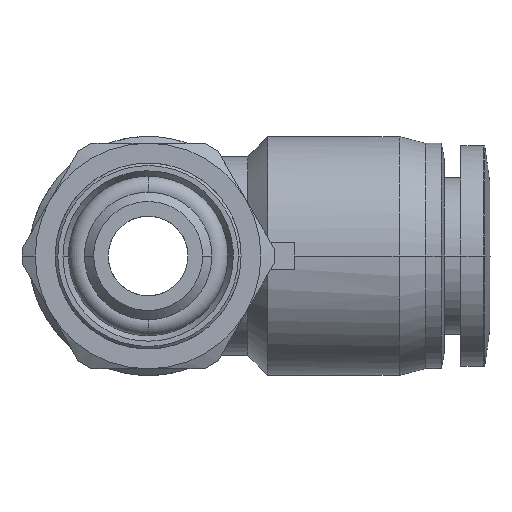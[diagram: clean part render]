
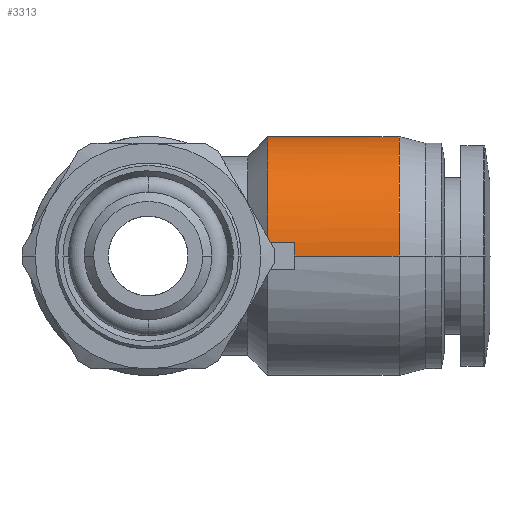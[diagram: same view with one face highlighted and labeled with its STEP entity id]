
A CAD part, front view. The second image highlights one B-rep face of the part: STEP entity #3313.
In plain terms, the highlighted cylindrical face has radius 9 mm (diameter 18 mm), a partial arc.
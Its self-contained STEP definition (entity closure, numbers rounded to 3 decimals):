
#27 = VERTEX_POINT ( 'NONE', #1325 ) ;
#58 = VECTOR ( 'NONE', #4463, 1000. ) ;
#81 = LINE ( 'NONE', #1532, #58 ) ;
#98 = CARTESIAN_POINT ( 'NONE',  ( 9., 25.5, 3.153 ) ) ;
#178 = VERTEX_POINT ( 'NONE', #5853 ) ;
#193 = CARTESIAN_POINT ( 'NONE',  ( 11.056, 8.056, 1. ) ) ;
#348 = CARTESIAN_POINT ( 'NONE',  ( 11.5, 26., 0. ) ) ;
#369 = ORIENTED_EDGE ( 'NONE', *, *, #3985, .F. ) ;
#391 = CARTESIAN_POINT ( 'NONE',  ( 18.9, 24.197, 5.531 ) ) ;
#462 = LINE ( 'NONE', #5751, #4586 ) ;
#482 = CARTESIAN_POINT ( 'NONE',  ( 11., 8., 0.333 ) ) ;
#559 = CARTESIAN_POINT ( 'NONE',  ( 9., 12.766, 8.017 ) ) ;
#572 = EDGE_CURVE ( 'NONE', #178, #27, #3756, .T. ) ;
#614 = ORIENTED_EDGE ( 'NONE', *, *, #2746, .F. ) ;
#642 = CYLINDRICAL_SURFACE ( 'NONE', #5866, 9. ) ;
#672 = VERTEX_POINT ( 'NONE', #3344 ) ;
#688 = CARTESIAN_POINT ( 'NONE',  ( 9., 25.944, 1. ) ) ;
#745 = CARTESIAN_POINT ( 'NONE',  ( 11.5, 26., 0.333 ) ) ;
#801 = EDGE_CURVE ( 'NONE', #27, #2409, #81, .T. ) ;
#891 = CARTESIAN_POINT ( 'NONE',  ( 18.9, 25.766, 2.356 ) ) ;
#945 = CARTESIAN_POINT ( 'NONE',  ( 18.9, 9.136, 4.533 ) ) ;
#1007 = B_SPLINE_CURVE_WITH_KNOTS ( 'NONE', 3,
 ( #688, #4326, #98, #2990, #1520, #3862, #3392, #2024, #2930, #4823, #4355, #559, #1991, #3895, #3419, #5324, #5820, #4855 ),
 .UNSPECIFIED., .F., .F.,
 ( 4, 2, 2, 2, 2, 2, 2, 2, 4 ),
 ( 0., 0.125, 0.25, 0.375, 0.5, 0.625, 0.75, 0.875, 1. ),
 .UNSPECIFIED. ) ;
#1325 = CARTESIAN_POINT ( 'NONE',  ( 11.5, 26., 0. ) ) ;
#1380 = CARTESIAN_POINT ( 'NONE',  ( 10.37, 8.056, 1. ) ) ;
#1476 = CARTESIAN_POINT ( 'NONE',  ( 10.704, 25.944, 1. ) ) ;
#1520 = CARTESIAN_POINT ( 'NONE',  ( 9., 23.816, 5.978 ) ) ;
#1532 = CARTESIAN_POINT ( 'NONE',  ( 13.95, 26., 0. ) ) ;
#1641 = DIRECTION ( 'NONE',  ( 1., 0., 0. ) ) ;
#1792 = CARTESIAN_POINT ( 'NONE',  ( 18.9, 8., 0. ) ) ;
#1819 = CARTESIAN_POINT ( 'NONE',  ( 18.9, 11.469, 7.197 ) ) ;
#1839 = ORIENTED_EDGE ( 'NONE', *, *, #3786, .F. ) ;
#1849 = CARTESIAN_POINT ( 'NONE',  ( 18.9, 8., 1.178 ) ) ;
#1895 = DIRECTION ( 'NONE',  ( 1., 0., 0. ) ) ;
#1991 = CARTESIAN_POINT ( 'NONE',  ( 9., 11.816, 7.438 ) ) ;
#2024 = CARTESIAN_POINT ( 'NONE',  ( 9., 19.189, 8.798 ) ) ;
#2187 = DIRECTION ( 'NONE',  ( 0., 1., 0. ) ) ;
#2211 = ORIENTED_EDGE ( 'NONE', *, *, #3610, .F. ) ;
#2226 = ORIENTED_EDGE ( 'NONE', *, *, #3593, .T. ) ;
#2267 = CARTESIAN_POINT ( 'NONE',  ( 18.9, 19.356, 8.766 ) ) ;
#2275 = ORIENTED_EDGE ( 'NONE', *, *, #572, .F. ) ;
#2296 = CARTESIAN_POINT ( 'NONE',  ( 18.9, 18.178, 9. ) ) ;
#2327 = CARTESIAN_POINT ( 'NONE',  ( 9.685, 8.056, 1. ) ) ;
#2409 = VERTEX_POINT ( 'NONE', #3943 ) ;
#2418 = B_SPLINE_CURVE_WITH_KNOTS ( 'NONE', 3,
 ( #5658, #1380, #2327, #3306 ),
 .UNSPECIFIED., .F., .F.,
 ( 4, 4 ),
 ( 0., 1. ),
 .UNSPECIFIED. ) ;
#2461 = B_SPLINE_CURVE_WITH_KNOTS ( 'NONE', 3,
 ( #2842, #5626, #891, #3277, #391, #2762, #2873, #2267, #2296, #6087, #4157, #6057, #1819, #5652, #945, #3249, #1849, #1792 ),
 .UNSPECIFIED., .F., .F.,
 ( 4, 2, 2, 2, 2, 2, 2, 2, 4 ),
 ( 0., 0.063, 0.125, 0.188, 0.25, 0.313, 0.375, 0.438, 0.5 ),
 .UNSPECIFIED. ) ;
#2565 = ORIENTED_EDGE ( 'NONE', *, *, #4219, .T. ) ;
#2746 = EDGE_CURVE ( 'NONE', #2409, #4301, #2461, .T. ) ;
#2762 = CARTESIAN_POINT ( 'NONE',  ( 18.9, 22.531, 7.197 ) ) ;
#2842 = CARTESIAN_POINT ( 'NONE',  ( 18.9, 26., 0. ) ) ;
#2853 = CARTESIAN_POINT ( 'NONE',  ( 11.056, 8.056, 1. ) ) ;
#2873 = CARTESIAN_POINT ( 'NONE',  ( 18.9, 21.533, 7.864 ) ) ;
#2890 = CARTESIAN_POINT ( 'NONE',  ( 9., 25.944, 1. ) ) ;
#2930 = CARTESIAN_POINT ( 'NONE',  ( 9., 18.095, 9. ) ) ;
#2990 = CARTESIAN_POINT ( 'NONE',  ( 9., 24.497, 5.098 ) ) ;
#3249 = CARTESIAN_POINT ( 'NONE',  ( 18.9, 8.234, 2.356 ) ) ;
#3277 = CARTESIAN_POINT ( 'NONE',  ( 18.9, 24.864, 4.533 ) ) ;
#3306 = CARTESIAN_POINT ( 'NONE',  ( 9., 8.056, 1. ) ) ;
#3313 = ADVANCED_FACE ( 'NONE', ( #3514 ), #642, .T. ) ;
#3344 = CARTESIAN_POINT ( 'NONE',  ( 9., 25.944, 1. ) ) ;
#3392 = CARTESIAN_POINT ( 'NONE',  ( 9., 21.234, 8.017 ) ) ;
#3419 = CARTESIAN_POINT ( 'NONE',  ( 9., 9.503, 5.098 ) ) ;
#3514 = FACE_OUTER_BOUND ( 'NONE', #5863, .T. ) ;
#3593 = EDGE_CURVE ( 'NONE', #5747, #4301, #462, .T. ) ;
#3610 = EDGE_CURVE ( 'NONE', #672, #178, #5686, .T. ) ;
#3617 = CARTESIAN_POINT ( 'NONE',  ( 11., 8., 0. ) ) ;
#3756 = B_SPLINE_CURVE_WITH_KNOTS ( 'NONE', 3,
 ( #4080, #5011, #745, #348 ),
 .UNSPECIFIED., .F., .F.,
 ( 4, 4 ),
 ( 0., 0.5 ),
 .UNSPECIFIED. ) ;
#3786 = EDGE_CURVE ( 'NONE', #5747, #4129, #5293, .T. ) ;
#3848 = CARTESIAN_POINT ( 'NONE',  ( 9.852, 25.944, 1. ) ) ;
#3862 = CARTESIAN_POINT ( 'NONE',  ( 9., 22.184, 7.438 ) ) ;
#3895 = CARTESIAN_POINT ( 'NONE',  ( 9., 10.184, 5.978 ) ) ;
#3943 = CARTESIAN_POINT ( 'NONE',  ( 18.9, 26., 0. ) ) ;
#3985 = EDGE_CURVE ( 'NONE', #4129, #4047, #2418, .T. ) ;
#4047 = VERTEX_POINT ( 'NONE', #5209 ) ;
#4080 = CARTESIAN_POINT ( 'NONE',  ( 11.556, 25.944, 1. ) ) ;
#4129 = VERTEX_POINT ( 'NONE', #193 ) ;
#4157 = CARTESIAN_POINT ( 'NONE',  ( 18.9, 14.644, 8.766 ) ) ;
#4219 = EDGE_CURVE ( 'NONE', #672, #4047, #1007, .T. ) ;
#4301 = VERTEX_POINT ( 'NONE', #4487 ) ;
#4326 = CARTESIAN_POINT ( 'NONE',  ( 9., 25.823, 2.088 ) ) ;
#4355 = CARTESIAN_POINT ( 'NONE',  ( 9., 14.811, 8.798 ) ) ;
#4463 = DIRECTION ( 'NONE',  ( 1., 0., 0. ) ) ;
#4487 = CARTESIAN_POINT ( 'NONE',  ( 18.9, 8., 0. ) ) ;
#4548 = CARTESIAN_POINT ( 'NONE',  ( 13.95, 17., 0. ) ) ;
#4586 = VECTOR ( 'NONE', #1895, 1000. ) ;
#4823 = CARTESIAN_POINT ( 'NONE',  ( 9., 15.905, 9. ) ) ;
#4855 = CARTESIAN_POINT ( 'NONE',  ( 9., 8.056, 1. ) ) ;
#5011 = CARTESIAN_POINT ( 'NONE',  ( 11.518, 25.982, 0.667 ) ) ;
#5189 = CARTESIAN_POINT ( 'NONE',  ( 11., 8., 0. ) ) ;
#5209 = CARTESIAN_POINT ( 'NONE',  ( 9., 8.056, 1. ) ) ;
#5250 = ORIENTED_EDGE ( 'NONE', *, *, #801, .F. ) ;
#5293 = B_SPLINE_CURVE_WITH_KNOTS ( 'NONE', 3,
 ( #5189, #482, #5693, #2853 ),
 .UNSPECIFIED., .F., .F.,
 ( 4, 4 ),
 ( 0.5, 1. ),
 .UNSPECIFIED. ) ;
#5324 = CARTESIAN_POINT ( 'NONE',  ( 9., 8.5, 3.153 ) ) ;
#5626 = CARTESIAN_POINT ( 'NONE',  ( 18.9, 26., 1.178 ) ) ;
#5652 = CARTESIAN_POINT ( 'NONE',  ( 18.9, 9.803, 5.531 ) ) ;
#5658 = CARTESIAN_POINT ( 'NONE',  ( 11.056, 8.056, 1. ) ) ;
#5686 = B_SPLINE_CURVE_WITH_KNOTS ( 'NONE', 3,
 ( #2890, #3848, #1476, #5700 ),
 .UNSPECIFIED., .F., .F.,
 ( 4, 4 ),
 ( 0., 1. ),
 .UNSPECIFIED. ) ;
#5693 = CARTESIAN_POINT ( 'NONE',  ( 11.018, 8.018, 0.667 ) ) ;
#5700 = CARTESIAN_POINT ( 'NONE',  ( 11.556, 25.944, 1. ) ) ;
#5747 = VERTEX_POINT ( 'NONE', #3617 ) ;
#5751 = CARTESIAN_POINT ( 'NONE',  ( 13.95, 8., 0. ) ) ;
#5820 = CARTESIAN_POINT ( 'NONE',  ( 9., 8.177, 2.088 ) ) ;
#5853 = CARTESIAN_POINT ( 'NONE',  ( 11.556, 25.944, 1. ) ) ;
#5863 = EDGE_LOOP ( 'NONE', ( #1839, #2226, #614, #5250, #2275, #2211, #2565, #369 ) ) ;
#5866 = AXIS2_PLACEMENT_3D ( 'NONE', #4548, #1641, #2187 ) ;
#6057 = CARTESIAN_POINT ( 'NONE',  ( 18.9, 12.467, 7.864 ) ) ;
#6087 = CARTESIAN_POINT ( 'NONE',  ( 18.9, 15.822, 9. ) ) ;
